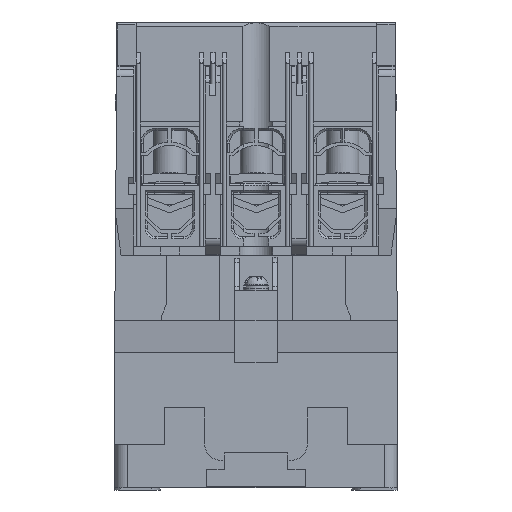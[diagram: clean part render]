
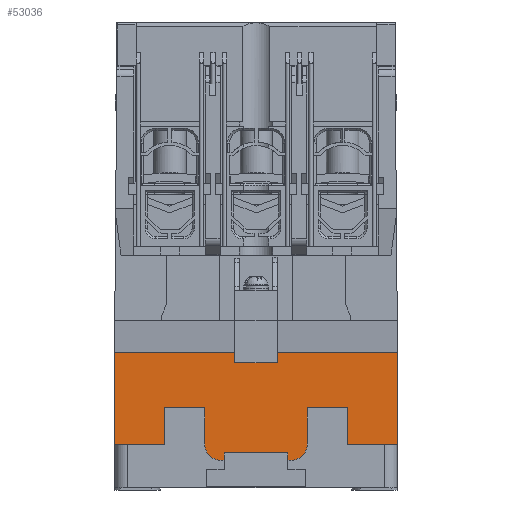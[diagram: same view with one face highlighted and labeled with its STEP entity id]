
A CAD part, front view. The second image highlights one B-rep face of the part: STEP entity #53036.
In plain terms, the highlighted planar face has unit normal (0, -1, 0).
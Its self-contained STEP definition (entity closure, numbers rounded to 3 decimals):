
#228 = VECTOR ( 'NONE', #56179, 1000. ) ;
#540 = LINE ( 'NONE', #58252, #44962 ) ;
#861 = VERTEX_POINT ( 'NONE', #4136 ) ;
#1474 = ORIENTED_EDGE ( 'NONE', *, *, #28388, .F. ) ;
#1546 = DIRECTION ( 'NONE',  ( 1., 0., 0. ) ) ;
#2834 = LINE ( 'NONE', #3123, #42116 ) ;
#3123 = CARTESIAN_POINT ( 'NONE',  ( -33.5, -39.998, 25.4 ) ) ;
#3592 = VECTOR ( 'NONE', #37362, 1000. ) ;
#3820 = CARTESIAN_POINT ( 'NONE',  ( 5., -39.998, 27.9 ) ) ;
#4136 = CARTESIAN_POINT ( 'NONE',  ( 12.2, -39.998, 14.7 ) ) ;
#4212 = EDGE_CURVE ( 'NONE', #52188, #4447, #8276, .T. ) ;
#4447 = VERTEX_POINT ( 'NONE', #52134 ) ;
#4466 = CARTESIAN_POINT ( 'NONE',  ( -5., -39.998, 27.9 ) ) ;
#5512 = CARTESIAN_POINT ( 'NONE',  ( -33.5, -39.998, 27.9 ) ) ;
#5768 = VERTEX_POINT ( 'NONE', #34632 ) ;
#6381 = DIRECTION ( 'NONE',  ( 0., 0., -1. ) ) ;
#8092 = CARTESIAN_POINT ( 'NONE',  ( 12.2, -39.998, 14.7 ) ) ;
#8200 = EDGE_CURVE ( 'NONE', #58560, #47428, #540, .T. ) ;
#8248 = EDGE_CURVE ( 'NONE', #49962, #36119, #32384, .T. ) ;
#8271 = ORIENTED_EDGE ( 'NONE', *, *, #58679, .F. ) ;
#8276 = CIRCLE ( 'NONE', #58479, 4. ) ;
#8637 = DIRECTION ( 'NONE',  ( 0., 0., -1. ) ) ;
#8864 = CARTESIAN_POINT ( 'NONE',  ( -21.8, -39.998, 14.7 ) ) ;
#9859 = ORIENTED_EDGE ( 'NONE', *, *, #45561, .T. ) ;
#9897 = VECTOR ( 'NONE', #33014, 1000. ) ;
#10007 = LINE ( 'NONE', #5512, #33661 ) ;
#10830 = FACE_OUTER_BOUND ( 'NONE', #49745, .T. ) ;
#11073 = VERTEX_POINT ( 'NONE', #11283 ) ;
#11283 = CARTESIAN_POINT ( 'NONE',  ( 5., -39.998, 27.9 ) ) ;
#11632 = CARTESIAN_POINT ( 'NONE',  ( 12.2, -39.998, 6.2 ) ) ;
#12482 = ORIENTED_EDGE ( 'NONE', *, *, #14765, .F. ) ;
#12735 = CARTESIAN_POINT ( 'NONE',  ( 5., -39.998, 25.4 ) ) ;
#12861 = LINE ( 'NONE', #8864, #228 ) ;
#13195 = AXIS2_PLACEMENT_3D ( 'NONE', #53519, #34671, #6381 ) ;
#13964 = VECTOR ( 'NONE', #45421, 1000. ) ;
#14538 = VECTOR ( 'NONE', #25052, 1000. ) ;
#14765 = EDGE_CURVE ( 'NONE', #31618, #34673, #10007, .T. ) ;
#15467 = AXIS2_PLACEMENT_3D ( 'NONE', #49197, #20879, #53970 ) ;
#17009 = CARTESIAN_POINT ( 'NONE',  ( 8.2, -39.998, 6.2 ) ) ;
#17439 = ORIENTED_EDGE ( 'NONE', *, *, #55002, .T. ) ;
#17698 = CIRCLE ( 'NONE', #15467, 4. ) ;
#17995 = CARTESIAN_POINT ( 'NONE',  ( -33.5, -39.998, 27.9 ) ) ;
#18346 = CARTESIAN_POINT ( 'NONE',  ( 33.5, -39.998, 5.9 ) ) ;
#18575 = CARTESIAN_POINT ( 'NONE',  ( 33.5, -39.998, 5.9 ) ) ;
#18674 = VERTEX_POINT ( 'NONE', #46920 ) ;
#19491 = VERTEX_POINT ( 'NONE', #12735 ) ;
#20277 = EDGE_CURVE ( 'NONE', #11073, #18674, #52274, .T. ) ;
#20837 = DIRECTION ( 'NONE',  ( 0., 0., 1. ) ) ;
#20879 = DIRECTION ( 'NONE',  ( 0., 1., 0. ) ) ;
#20917 = CARTESIAN_POINT ( 'NONE',  ( -33.5, -39.998, 5.9 ) ) ;
#21741 = DIRECTION ( 'NONE',  ( 0., 0., -1. ) ) ;
#22080 = LINE ( 'NONE', #54702, #13964 ) ;
#22263 = VECTOR ( 'NONE', #46702, 1000. ) ;
#22457 = LINE ( 'NONE', #4466, #9897 ) ;
#23927 = VECTOR ( 'NONE', #60300, 1000. ) ;
#25052 = DIRECTION ( 'NONE',  ( 1., 0., 0. ) ) ;
#25344 = EDGE_CURVE ( 'NONE', #861, #40459, #22080, .T. ) ;
#26558 = VECTOR ( 'NONE', #45941, 1000. ) ;
#26880 = ORIENTED_EDGE ( 'NONE', *, *, #8248, .F. ) ;
#27328 = LINE ( 'NONE', #32618, #3592 ) ;
#28113 = ORIENTED_EDGE ( 'NONE', *, *, #8200, .T. ) ;
#28368 = CARTESIAN_POINT ( 'NONE',  ( -12.2, -39.998, 6.2 ) ) ;
#28388 = EDGE_CURVE ( 'NONE', #34013, #19491, #2834, .T. ) ;
#29096 = DIRECTION ( 'NONE',  ( 1., 0., 0. ) ) ;
#29843 = CARTESIAN_POINT ( 'NONE',  ( -21.8, -39.998, 14.7 ) ) ;
#29852 = ORIENTED_EDGE ( 'NONE', *, *, #20277, .F. ) ;
#30269 = EDGE_CURVE ( 'NONE', #40459, #58560, #38164, .T. ) ;
#30500 = CARTESIAN_POINT ( 'NONE',  ( 21.8, -39.998, 14.7 ) ) ;
#30854 = CARTESIAN_POINT ( 'NONE',  ( -8.2, -39.998, 2.2 ) ) ;
#31618 = VERTEX_POINT ( 'NONE', #17995 ) ;
#32211 = EDGE_CURVE ( 'NONE', #31618, #5768, #36475, .T. ) ;
#32384 = LINE ( 'NONE', #53920, #42003 ) ;
#32618 = CARTESIAN_POINT ( 'NONE',  ( -8.2, -39.998, 2.2 ) ) ;
#33014 = DIRECTION ( 'NONE',  ( 0., 0., -1. ) ) ;
#33023 = VECTOR ( 'NONE', #8637, 1000. ) ;
#33602 = EDGE_CURVE ( 'NONE', #18674, #47428, #57027, .T. ) ;
#33661 = VECTOR ( 'NONE', #29096, 1000. ) ;
#34013 = VERTEX_POINT ( 'NONE', #50995 ) ;
#34417 = VECTOR ( 'NONE', #49226, 1000. ) ;
#34632 = CARTESIAN_POINT ( 'NONE',  ( -33.5, -39.998, 5.9 ) ) ;
#34671 = DIRECTION ( 'NONE',  ( 0., -1., 0. ) ) ;
#34673 = VERTEX_POINT ( 'NONE', #58800 ) ;
#35890 = LINE ( 'NONE', #20917, #34417 ) ;
#36024 = DIRECTION ( 'NONE',  ( 1., 0., 0. ) ) ;
#36119 = VERTEX_POINT ( 'NONE', #57366 ) ;
#36475 = LINE ( 'NONE', #55529, #23927 ) ;
#37362 = DIRECTION ( 'NONE',  ( -1., 0., 0. ) ) ;
#37805 = ORIENTED_EDGE ( 'NONE', *, *, #4212, .F. ) ;
#38164 = LINE ( 'NONE', #53657, #49227 ) ;
#39088 = DIRECTION ( 'NONE',  ( 0., 0., 1. ) ) ;
#39314 = CARTESIAN_POINT ( 'NONE',  ( 5., -39.998, 27.9 ) ) ;
#39587 = DIRECTION ( 'NONE',  ( 0., 0., -1. ) ) ;
#39729 = ORIENTED_EDGE ( 'NONE', *, *, #57630, .F. ) ;
#40459 = VERTEX_POINT ( 'NONE', #30500 ) ;
#41259 = ORIENTED_EDGE ( 'NONE', *, *, #32211, .T. ) ;
#42003 = VECTOR ( 'NONE', #20837, 1000. ) ;
#42116 = VECTOR ( 'NONE', #36024, 1000. ) ;
#42330 = ORIENTED_EDGE ( 'NONE', *, *, #55055, .F. ) ;
#43871 = CARTESIAN_POINT ( 'NONE',  ( -21.8, -39.998, 5.9 ) ) ;
#44205 = EDGE_CURVE ( 'NONE', #861, #52188, #58343, .T. ) ;
#44962 = VECTOR ( 'NONE', #1546, 1000. ) ;
#45146 = LINE ( 'NONE', #43871, #56234 ) ;
#45421 = DIRECTION ( 'NONE',  ( 1., 0., 0. ) ) ;
#45561 = EDGE_CURVE ( 'NONE', #11073, #19491, #58163, .T. ) ;
#45941 = DIRECTION ( 'NONE',  ( 0., 0., -1. ) ) ;
#46380 = ORIENTED_EDGE ( 'NONE', *, *, #44205, .F. ) ;
#46486 = EDGE_CURVE ( 'NONE', #54442, #50216, #45146, .T. ) ;
#46702 = DIRECTION ( 'NONE',  ( 0., 0., -1. ) ) ;
#46920 = CARTESIAN_POINT ( 'NONE',  ( 33.5, -39.998, 27.9 ) ) ;
#47428 = VERTEX_POINT ( 'NONE', #18346 ) ;
#47801 = ORIENTED_EDGE ( 'NONE', *, *, #46486, .T. ) ;
#48213 = VERTEX_POINT ( 'NONE', #30854 ) ;
#48751 = PLANE ( 'NONE',  #13195 ) ;
#49197 = CARTESIAN_POINT ( 'NONE',  ( -8.2, -39.998, 6.2 ) ) ;
#49226 = DIRECTION ( 'NONE',  ( 1., 0., 0. ) ) ;
#49227 = VECTOR ( 'NONE', #39587, 1000. ) ;
#49631 = ORIENTED_EDGE ( 'NONE', *, *, #56009, .T. ) ;
#49633 = ORIENTED_EDGE ( 'NONE', *, *, #33602, .F. ) ;
#49745 = EDGE_LOOP ( 'NONE', ( #47801, #17439, #26880, #39729, #8271, #37805, #46380, #57856, #56135, #28113, #49633, #29852, #9859, #1474, #42330, #12482, #41259, #49631 ) ) ;
#49962 = VERTEX_POINT ( 'NONE', #28368 ) ;
#49995 = CARTESIAN_POINT ( 'NONE',  ( 21.8, -39.998, 5.9 ) ) ;
#50064 = DIRECTION ( 'NONE',  ( 0., 1., 0. ) ) ;
#50216 = VERTEX_POINT ( 'NONE', #29843 ) ;
#50995 = CARTESIAN_POINT ( 'NONE',  ( -5., -39.998, 25.4 ) ) ;
#52134 = CARTESIAN_POINT ( 'NONE',  ( 8.2, -39.998, 2.2 ) ) ;
#52188 = VERTEX_POINT ( 'NONE', #11632 ) ;
#52274 = LINE ( 'NONE', #39314, #14538 ) ;
#53036 = ADVANCED_FACE ( 'NONE', ( #10830 ), #48751, .T. ) ;
#53519 = CARTESIAN_POINT ( 'NONE',  ( -33.5, -39.998, 5.9 ) ) ;
#53657 = CARTESIAN_POINT ( 'NONE',  ( 21.8, -39.998, 5.9 ) ) ;
#53920 = CARTESIAN_POINT ( 'NONE',  ( -12.2, -39.998, 14.7 ) ) ;
#53970 = DIRECTION ( 'NONE',  ( 0., 0., -1. ) ) ;
#54442 = VERTEX_POINT ( 'NONE', #60999 ) ;
#54702 = CARTESIAN_POINT ( 'NONE',  ( -21.8, -39.998, 14.7 ) ) ;
#55002 = EDGE_CURVE ( 'NONE', #50216, #36119, #12861, .T. ) ;
#55055 = EDGE_CURVE ( 'NONE', #34673, #34013, #22457, .T. ) ;
#55529 = CARTESIAN_POINT ( 'NONE',  ( -33.5, -39.998, 5.9 ) ) ;
#56009 = EDGE_CURVE ( 'NONE', #5768, #54442, #35890, .T. ) ;
#56135 = ORIENTED_EDGE ( 'NONE', *, *, #30269, .T. ) ;
#56179 = DIRECTION ( 'NONE',  ( 1., 0., 0. ) ) ;
#56234 = VECTOR ( 'NONE', #39088, 1000. ) ;
#57027 = LINE ( 'NONE', #18575, #22263 ) ;
#57366 = CARTESIAN_POINT ( 'NONE',  ( -12.2, -39.998, 14.7 ) ) ;
#57630 = EDGE_CURVE ( 'NONE', #48213, #49962, #17698, .T. ) ;
#57856 = ORIENTED_EDGE ( 'NONE', *, *, #25344, .T. ) ;
#58163 = LINE ( 'NONE', #3820, #33023 ) ;
#58252 = CARTESIAN_POINT ( 'NONE',  ( -33.5, -39.998, 5.9 ) ) ;
#58343 = LINE ( 'NONE', #8092, #26558 ) ;
#58479 = AXIS2_PLACEMENT_3D ( 'NONE', #17009, #50064, #21741 ) ;
#58560 = VERTEX_POINT ( 'NONE', #49995 ) ;
#58679 = EDGE_CURVE ( 'NONE', #4447, #48213, #27328, .T. ) ;
#58800 = CARTESIAN_POINT ( 'NONE',  ( -5., -39.998, 27.9 ) ) ;
#60300 = DIRECTION ( 'NONE',  ( 0., 0., -1. ) ) ;
#60999 = CARTESIAN_POINT ( 'NONE',  ( -21.8, -39.998, 5.9 ) ) ;
